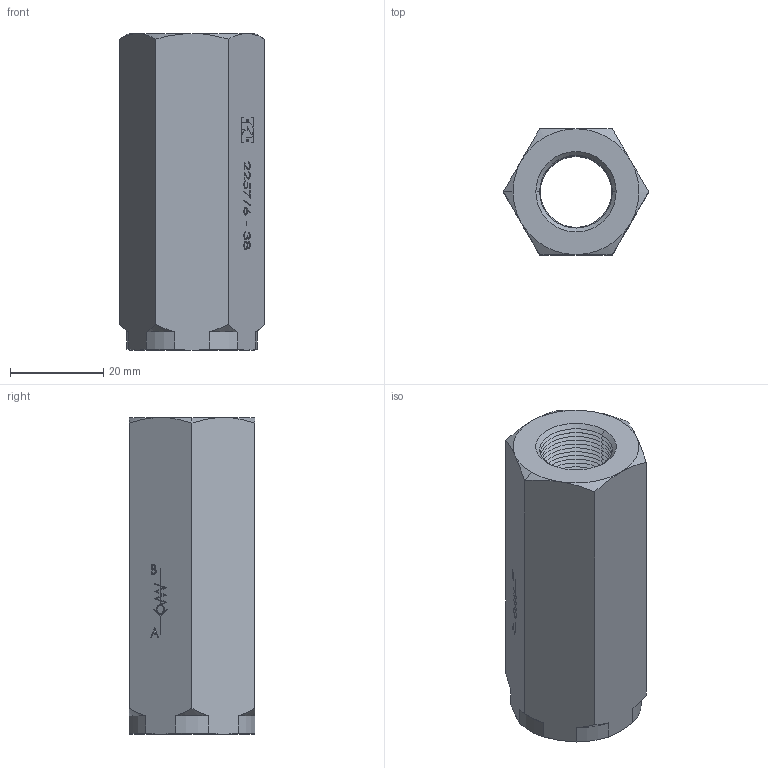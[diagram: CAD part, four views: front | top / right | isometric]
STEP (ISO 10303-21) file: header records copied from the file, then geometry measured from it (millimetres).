
FILE_DESCRIPTION (( 'STEP AP214' ), '1' );
FILE_NAME ('2257-6-38.STEP', '2015-04-08T20:14:32', ( '' ), ( '' ), 'SwSTEP 2.0', 'SolidWorks 2014', '' );
FILE_SCHEMA (( 'AUTOMOTIVE_DESIGN' ));
Length unit declared in the file: millimetre
Products named in the file (1): 2257-6-38
Bounding box: 31.18 x 27 x 68 mm (x, y, z)
Surface area: 8896.6 mm2 (no closed solid volume)
Topology: 0 solids, 6 shells, 325 faces, 903 edges, 576 vertices
Faces by surface type: plane 142, cone 107, bspline 56, cylinder 20
Entity records: 17364 total; most frequent: CARTESIAN_POINT 5949, ORIENTED_EDGE 1644, DIRECTION 1423, EDGE_CURVE 903, VERTEX_POINT 576, VECTOR 575, LINE 575, AXIS2_PLACEMENT_3D 424
